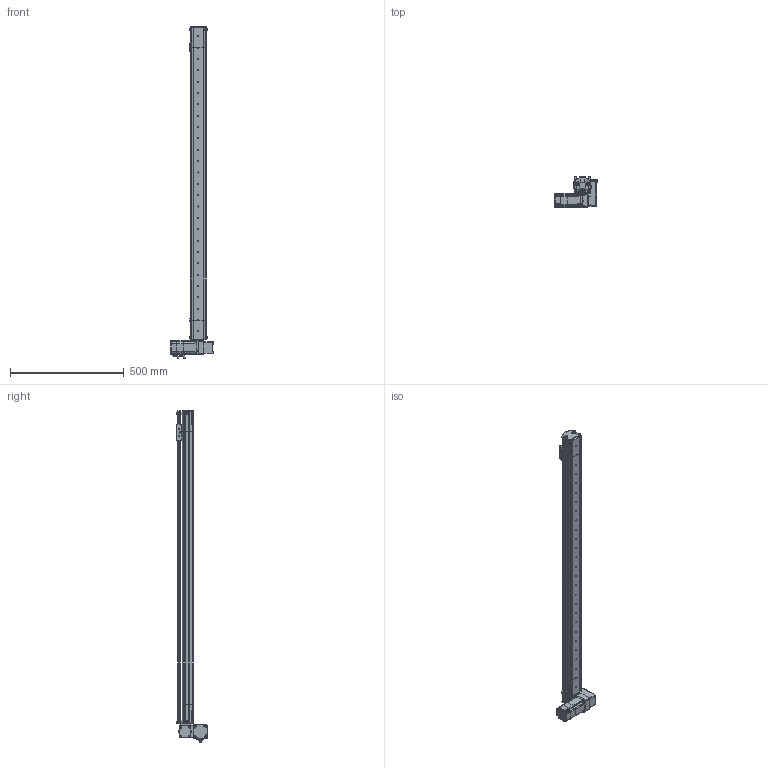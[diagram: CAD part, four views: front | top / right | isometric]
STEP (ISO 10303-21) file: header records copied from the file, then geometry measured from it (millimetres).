
FILE_DESCRIPTION (( 'STEP AP214' ), '1' );
FILE_NAME ('S07 TBN LU S1200.STEP', '2010-06-29T11:56:23', ( 'Conseil Régional Haute-Normandie' ), ( 'Conseil Régional Haute-Normandie' ), 'SwSTEP 2.0', 'SolidWorks 2010', '' );
FILE_SCHEMA (( 'AUTOMOTIVE_DESIGN' ));
Length unit declared in the file: millimetre
Products named in the file (41): corp tail TB_Default; Conecteur 60BLDC_Default; S07 TBN LU S1200; vis M5 L16_Default; Chariot; couvercle tail TB; Conecteur2 60BLDC_Default; VisM3_Default; Cvis M5 L30_Default; Vis M5 L16-2_Default; Poulie_Default; plaque de bout_Default; S07 TB tail (78)_Default; vis M5 L5_Default; vis M5 L12_Default; couroie tail_Default; CHariot_Default; guide; Pièce5^S07 LU(146); T皻e de poulie_Default; P1_Default; Couroie t皻e_Default; P3 90A_Default; P2 90A_Default; Axe 60BLDC_Default; P4_Default; Couroie  course 1200_Default; Plaque racord_Default; renvoi LU_Default; couvercle S07 course 1200 ; couvercle moteur S07 TB; corp moteur TB(146)_Default; S07 LU(146)_Default; plaque de bout LU_Default; cache t皻e axe_Default; Poulie head_Default; Course C L1200_Default; cache t皻e_Default; GMB 60 90 310_Default; Corp S07 course 1200_Default
Assembly tree (80 placements, depth 4):
  S07 TBN LU S1200
    CHariot_Default
      vis M5 L16_Default  x2
      guide
      Chariot
    S07 TB tail (78)_Default
      vis M5 L12_Default  x10
      Poulie_Default
        T皻e de poulie_Default
        Poulie_Default
      couvercle tail TB
      plaque de bout_Default
      corp tail TB_Default
      couroie tail_Default
    S07 LU(146)_Default
      vis M5 L12_Default  x6
      Vis M5 L16-2_Default  x8
      Plaque racord_Default
      vis M5 L5_Default  x6
      corp moteur TB(146)_Default
      cache t皻e_Default  x2
      Cvis M5 L30_Default  x2
      Couroie t皻e_Default
      renvoi LU_Default
      GMB 60 90 310_Default
        VisM3_Default  x12
        Conecteur2 60BLDC_Default
        P3 90A_Default
        P2 90A_Default
        Axe 60BLDC_Default
        Conecteur 60BLDC_Default
        P4_Default
        P1_Default
      Poulie head_Default
      couvercle moteur S07 TB
      cache t皻e axe_Default
      plaque de bout LU_Default
    Course C L1200_Default
      Corp S07 course 1200_Default
      couvercle S07 course 1200 
      Couroie  course 1200_Default
  Pièce5^S07 LU(146)
Bounding box: 190.2 x 134.7 x 1462 mm (x, y, z)
Volume: 2955208.3 mm3; surface area: 1276933.4 mm2
Topology: 102 solids, 102 shells, 3946 faces, 9828 edges, 6349 vertices
Faces by surface type: plane 2238, cylinder 778, bspline 677, cone 125, torus 124, sphere 4
Entity records: 167937 total; most frequent: CARTESIAN_POINT 75317, ORIENTED_EDGE 15568, DIRECTION 12439, EDGE_CURVE 7784, VERTEX_POINT 5137, VECTOR 5065, LINE 5065, AXIS2_PLACEMENT_3D 3687
